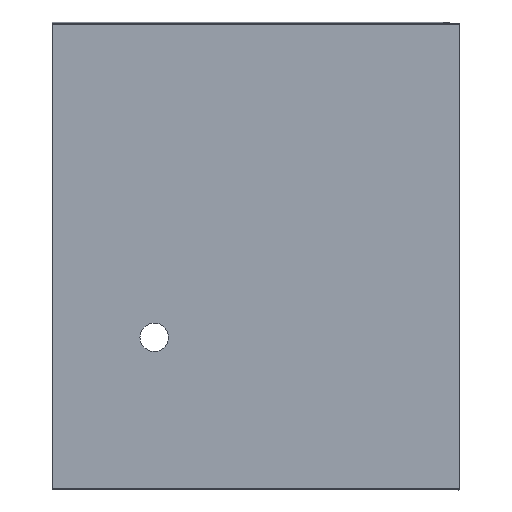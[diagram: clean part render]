
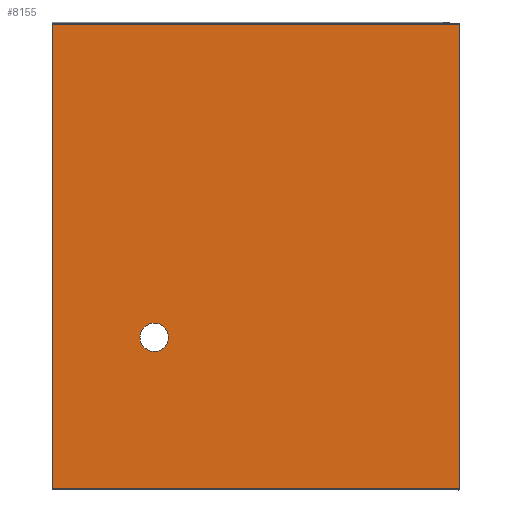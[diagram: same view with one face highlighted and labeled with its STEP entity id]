
A CAD part, left-side view. The second image highlights one B-rep face of the part: STEP entity #8155.
In plain terms, the highlighted planar face has unit normal (-1, 0, 0) as drawn and (1, 0, 0) by its records, which use the part's own axes.
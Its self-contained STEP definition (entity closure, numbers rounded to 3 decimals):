
#741=CIRCLE('',#8779,7.);
#871=FACE_BOUND('',#1492,.T.);
#1071=FACE_OUTER_BOUND('',#1491,.T.);
#1491=EDGE_LOOP('',(#6513,#6514,#6515,#6516));
#1492=EDGE_LOOP('',(#6517));
#1775=LINE('',#11845,#2529);
#1841=LINE('',#12142,#2595);
#2008=LINE('',#12656,#2762);
#2104=LINE('',#12855,#2858);
#2529=VECTOR('',#9396,10.);
#2595=VECTOR('',#9628,10.);
#2762=VECTOR('',#10141,10.);
#2858=VECTOR('',#10435,10.);
#3529=VERTEX_POINT('',#11842);
#3530=VERTEX_POINT('',#11844);
#3677=VERTEX_POINT('',#12139);
#3678=VERTEX_POINT('',#12141);
#3856=VERTEX_POINT('',#12711);
#4317=EDGE_CURVE('',#3529,#3530,#1775,.T.);
#4465=EDGE_CURVE('',#3677,#3678,#1841,.T.);
#4728=EDGE_CURVE('',#3678,#3529,#2008,.T.);
#4756=EDGE_CURVE('',#3856,#3856,#741,.T.);
#4828=EDGE_CURVE('',#3530,#3677,#2104,.T.);
#6513=ORIENTED_EDGE('',*,*,#4465,.F.);
#6514=ORIENTED_EDGE('',*,*,#4828,.F.);
#6515=ORIENTED_EDGE('',*,*,#4317,.F.);
#6516=ORIENTED_EDGE('',*,*,#4728,.F.);
#6517=ORIENTED_EDGE('',*,*,#4756,.T.);
#7877=PLANE('',#8851);
#8155=ADVANCED_FACE('',(#1071,#871),#7877,.T.);
#8779=AXIS2_PLACEMENT_3D('',#12712,#10220,#10221);
#8851=AXIS2_PLACEMENT_3D('',#12856,#10436,#10437);
#9396=DIRECTION('',(0.,-1.,0.));
#9628=DIRECTION('',(0.,1.,0.));
#10141=DIRECTION('',(0.,0.,-1.));
#10220=DIRECTION('center_axis',(-1.,0.,0.));
#10221=DIRECTION('ref_axis',(0.,0.,1.));
#10435=DIRECTION('',(0.,0.,1.));
#10436=DIRECTION('center_axis',(1.,0.,0.));
#10437=DIRECTION('ref_axis',(0.,0.,-1.));
#11842=CARTESIAN_POINT('',(0.,228.583,550.));
#11844=CARTESIAN_POINT('',(0.,0.5,550.));
#11845=CARTESIAN_POINT('',(0.,114.521,550.));
#12139=CARTESIAN_POINT('',(0.,0.5,750.));
#12141=CARTESIAN_POINT('',(0.,228.583,750.));
#12142=CARTESIAN_POINT('',(0.,114.521,750.));
#12656=CARTESIAN_POINT('',(0.,228.583,0.));
#12711=CARTESIAN_POINT('',(0.,75.,693.));
#12712=CARTESIAN_POINT('Origin',(0.,75.,700.));
#12855=CARTESIAN_POINT('',(0.,0.5,0.));
#12856=CARTESIAN_POINT('Origin',(0.,229.041,0.));
